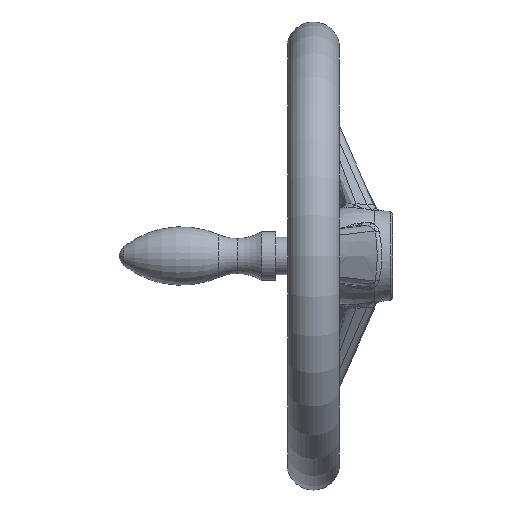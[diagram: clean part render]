
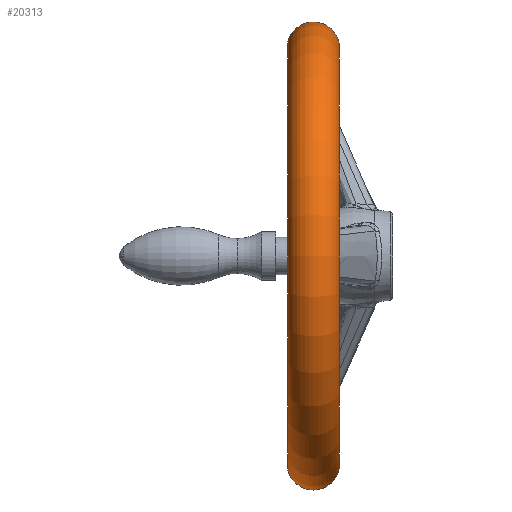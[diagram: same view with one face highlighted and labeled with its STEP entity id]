
A CAD part, left-side view. The second image highlights one B-rep face of the part: STEP entity #20313.
In plain terms, the highlighted toroidal (fillet/blend) face has major radius 88.778 mm and minor radius 11.222 mm.
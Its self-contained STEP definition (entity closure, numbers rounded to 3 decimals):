
#12551 = DIRECTION ( 'NONE',  ( 0., 0., -1. ) ) ;
#12561 = DIRECTION ( 'NONE',  ( 0., -1., 0. ) ) ;
#12562 = FACE_OUTER_BOUND ( 'NONE', #20321, .T. ) ;
#12563 = TOROIDAL_SURFACE ( 'NONE', #12568, 88.778, 11.222 ) ;
#12567 = CARTESIAN_POINT ( 'NONE',  ( 0., 34., 0. ) ) ;
#12568 = AXIS2_PLACEMENT_3D ( 'NONE', #12567, #12561, #12551 ) ;
#12572 = DIRECTION ( 'NONE',  ( 0., 0., -1. ) ) ;
#12573 = DIRECTION ( 'NONE',  ( 0., -1., 0. ) ) ;
#12574 = AXIS2_PLACEMENT_3D ( 'NONE', #12590, #12573, #12572 ) ;
#12584 = CARTESIAN_POINT ( 'NONE',  ( 0., 23., -91. ) ) ;
#12585 = CIRCLE ( 'NONE', #12574, 91. ) ;
#12590 = CARTESIAN_POINT ( 'NONE',  ( 0., 23., 0. ) ) ;
#12614 = CARTESIAN_POINT ( 'NONE',  ( 0., 34., -88.778 ) ) ;
#12686 = DIRECTION ( 'NONE',  ( 0., 0., 1. ) ) ;
#12687 = DIRECTION ( 'NONE',  ( -1., 0., 0. ) ) ;
#12697 = AXIS2_PLACEMENT_3D ( 'NONE', #12614, #12687, #12686 ) ;
#12699 = DIRECTION ( 'NONE',  ( 0., 0., -1. ) ) ;
#12700 = DIRECTION ( 'NONE',  ( 1., 0., 0. ) ) ;
#12701 = CARTESIAN_POINT ( 'NONE',  ( 0., 34., 88.778 ) ) ;
#12702 = AXIS2_PLACEMENT_3D ( 'NONE', #12701, #12700, #12699 ) ;
#12711 = CIRCLE ( 'NONE', #12702, 11.222 ) ;
#12717 = CIRCLE ( 'NONE', #12697, 11.222 ) ;
#12903 = CARTESIAN_POINT ( 'NONE',  ( 0., 23., 91. ) ) ;
#13377 = AXIS2_PLACEMENT_3D ( 'NONE', #13448, #13438, #13437 ) ;
#13378 = CARTESIAN_POINT ( 'NONE',  ( 0., 45., 91. ) ) ;
#13380 = CIRCLE ( 'NONE', #13377, 91. ) ;
#13437 = DIRECTION ( 'NONE',  ( 0., 0., -1. ) ) ;
#13438 = DIRECTION ( 'NONE',  ( 0., -1., 0. ) ) ;
#13448 = CARTESIAN_POINT ( 'NONE',  ( 0., 45., 0. ) ) ;
#15164 = CARTESIAN_POINT ( 'NONE',  ( 0., 45., -91. ) ) ;
#20250 = ORIENTED_EDGE ( 'NONE', *, *, #25616, .T. ) ;
#20297 = ORIENTED_EDGE ( 'NONE', *, *, #20337, .F. ) ;
#20313 = ADVANCED_FACE ( 'NONE', ( #12562 ), #12563, .T. ) ;
#20315 = ORIENTED_EDGE ( 'NONE', *, *, #20377, .T. ) ;
#20316 = ORIENTED_EDGE ( 'NONE', *, *, #20372, .F. ) ;
#20321 = EDGE_LOOP ( 'NONE', ( #20316, #20250, #20315, #20297 ) ) ;
#20336 = VERTEX_POINT ( 'NONE', #12584 ) ;
#20337 = EDGE_CURVE ( 'NONE', #20458, #20336, #12585, .T. ) ;
#20372 = EDGE_CURVE ( 'NONE', #25604, #20458, #12711, .T. ) ;
#20377 = EDGE_CURVE ( 'NONE', #26569, #20336, #12717, .T. ) ;
#20458 = VERTEX_POINT ( 'NONE', #12903 ) ;
#25604 = VERTEX_POINT ( 'NONE', #13378 ) ;
#25616 = EDGE_CURVE ( 'NONE', #25604, #26569, #13380, .T. ) ;
#26569 = VERTEX_POINT ( 'NONE', #15164 ) ;
